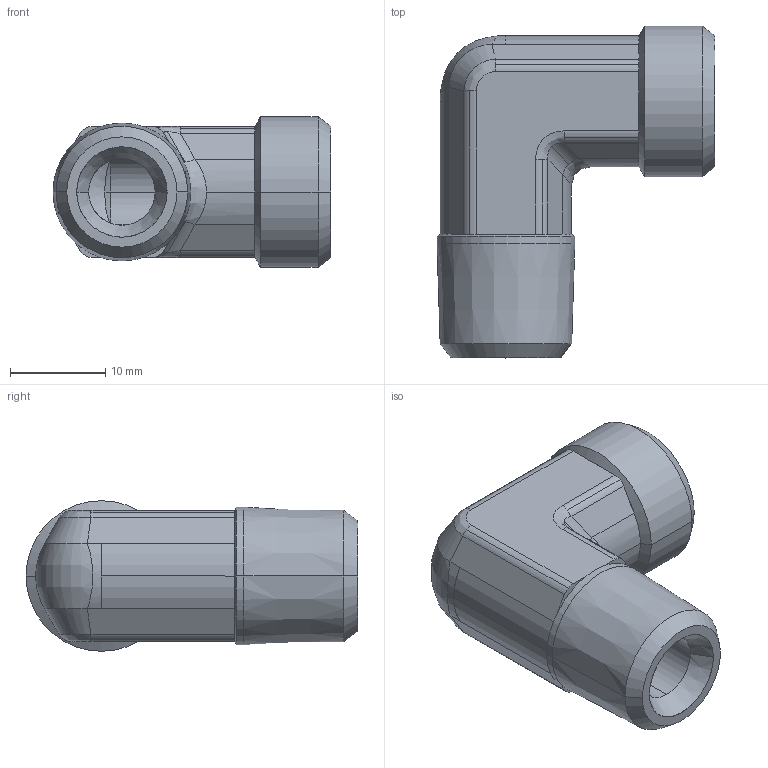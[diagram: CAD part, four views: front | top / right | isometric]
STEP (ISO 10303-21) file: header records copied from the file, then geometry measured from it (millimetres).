
FILE_DESCRIPTION((''),'2;1');
FILE_NAME('102206.stp','2007-10-31T10:29:18',(''),(''),'AutoCAD STEP 2000i','AutoCAD 2000i',', , ');
FILE_SCHEMA(('CONFIG_CONTROL_DESIGN'));
Length unit declared in the file: millimetre
Products named in the file (2): 102206.0; 3090#0
Assembly tree (1 placements, depth 2):
  102206.0
    3090#0
Bounding box: 29.25 x 34.92 x 15.85 mm (x, y, z)
Volume: 5463.2 mm3; surface area: 3610 mm2
Topology: 1 solids, 1 shells, 102 faces, 240 edges, 143 vertices
Faces by surface type: cylinder 42, plane 25, cone 21, bspline 14
Entity records: 3828 total; most frequent: CARTESIAN_POINT 1389, DIRECTION 511, ORIENTED_EDGE 480, EDGE_CURVE 240, AXIS2_PLACEMENT_3D 209, VERTEX_POINT 143, CIRCLE 109, EDGE_LOOP 107
